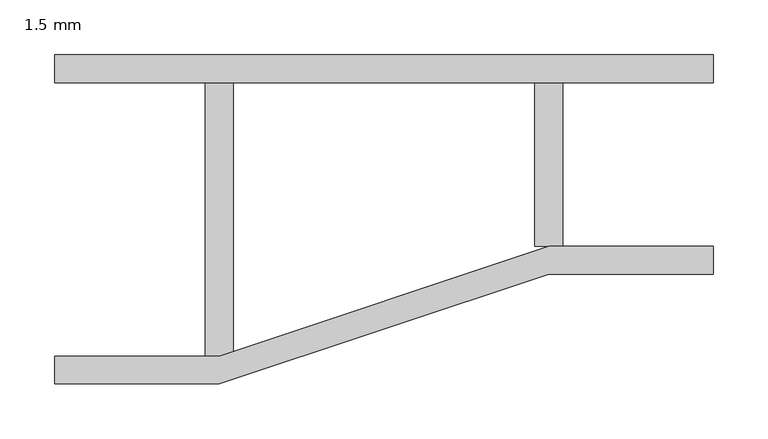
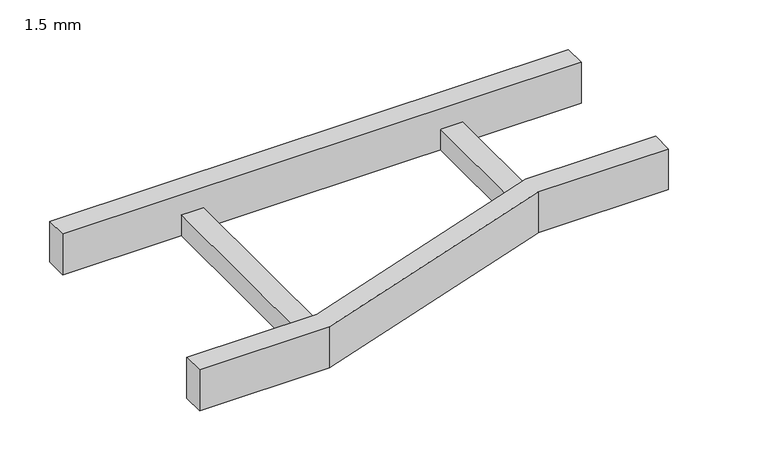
"""IFC4 building model written with IfcOpenShell, lengths in millimetres: cable carrier fitting geometry, BAKS_Redukcja_drabiny : 1.5 mm."""

from ifc_helpers import new_model, si_unit, frame, origin, place, context, project, spatial, polyline, outline, extrude, source, transform, mapped, element, save


def cable_carrier_fitting_1_5_mm_c50eb6b4(model_context):
    return source(origin(), model_context, "Body", "SweptSolid", [
        extrude(outline(polyline([(0.0, -150.0), (0.0, -124.6), (150.0, -124.6), (450.0, -24.6), (600.0, -24.6), (600.0, -50.0), (450.0, -50.0), (150.0, -150.0), (0.0, -150.0)])), frame((0.0, 0.0, -25.0), z_axis=(0.0, 0.0, 1.0), x_axis=(1.0, 0.0, 0.0)), (0.0, 0.0, 1.0), 50.0),
        extrude(outline(polyline([(0.0, 124.6), (0.0, 150.0), (600.0, 150.0), (600.0, 124.6), (0.0, 124.6)])), frame((0.0, 0.0, -25.0), z_axis=(0.0, 0.0, 1.0), x_axis=(1.0, 0.0, 0.0)), (0.0, 0.0, 1.0), 50.0),
        extrude(outline(polyline([(437.3, 124.6), (462.7, 124.6), (462.7, -24.6), (437.3, -24.6), (437.3, 124.6)])), frame((0.0, 0.0, -25.0), z_axis=(0.0, 0.0, 1.0), x_axis=(1.0, 0.0, 0.0)), (0.0, 0.0, 1.0), 25.4),
        extrude(outline(polyline([(137.3, 124.6), (162.7, 124.6), (162.7, -124.6), (137.3, -124.6), (137.3, 124.6)])), frame((0.0, 0.0, -25.0), z_axis=(0.0, 0.0, 1.0), x_axis=(1.0, 0.0, 0.0)), (0.0, 0.0, 1.0), 25.4),
    ])


if __name__ == "__main__":
    model = new_model("IFC4")
    model_context = context("Model", 3, world=origin())
    ifc_project = project(units=[si_unit("LENGTHUNIT", "METRE", prefix="MILLI")], contexts=[model_context])
    site = spatial("IfcSite", under=ifc_project)
    building = spatial("IfcBuilding", under=site)
    placement = place(None, origin())
    cable_carrier_fitting_1_5_mm_shape = cable_carrier_fitting_1_5_mm_c50eb6b4(model_context)
    element("IfcCableCarrierFitting", 1, ObjectType="BAKS_Redukcja_drabiny : 1.5 mm", at=placement, inside=building, context=model_context, shape_type="MappedRepresentation", body=[
        mapped(cable_carrier_fitting_1_5_mm_shape, transform((0.0, 0.0, 0.0), x_axis=(1.0, 0.0, 0.0), y_axis=(0.0, 1.0, 0.0), z_axis=(0.0, 0.0, 1.0))),
    ])
    save(model, "model.ifc")
